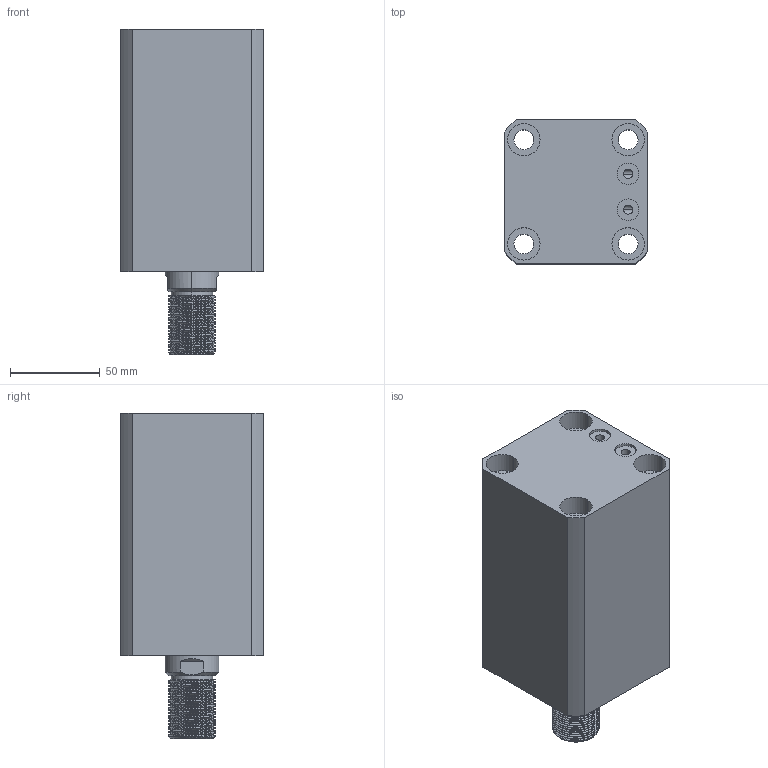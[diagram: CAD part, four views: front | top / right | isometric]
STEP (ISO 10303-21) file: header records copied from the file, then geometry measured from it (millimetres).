
FILE_DESCRIPTION (( 'STEP AP203' ), '1' );
FILE_NAME ('CHTB-SDMB50-75W.STEP', '2018-05-19T06:44:40', ( '' ), ( '' ), 'SwSTEP 2.0', 'SolidWorks 2015', '' );
FILE_SCHEMA (( 'CONFIG_CONTROL_DESIGN' ));
Length unit declared in the file: millimetre
Products named in the file (5): CHTM-SDMA50QG; M6; 掛极SDMB50-75W; 活塞杆SDMB50-75W; CHTB-SDMB50-75W
Assembly tree (5 placements, depth 2):
  CHTB-SDMB50-75W
    掛极SDMB50-75W
    活塞杆SDMB50-75W
    CHTM-SDMA50QG
    M6  x2
Bounding box: 80 x 80 x 181 mm (x, y, z)
Volume: 722767 mm3; surface area: 133361.9 mm2
Topology: 5 solids, 5 shells, 305 faces, 821 edges, 547 vertices
Faces by surface type: cylinder 175, plane 57, cone 29, bspline 28, torus 16
Entity records: 17763 total; most frequent: CARTESIAN_POINT 11022, ORIENTED_EDGE 1448, DIRECTION 1131, EDGE_CURVE 724, VERTEX_POINT 486, AXIS2_PLACEMENT_3D 455, EDGE_LOOP 312, FACE_OUTER_BOUND 270
